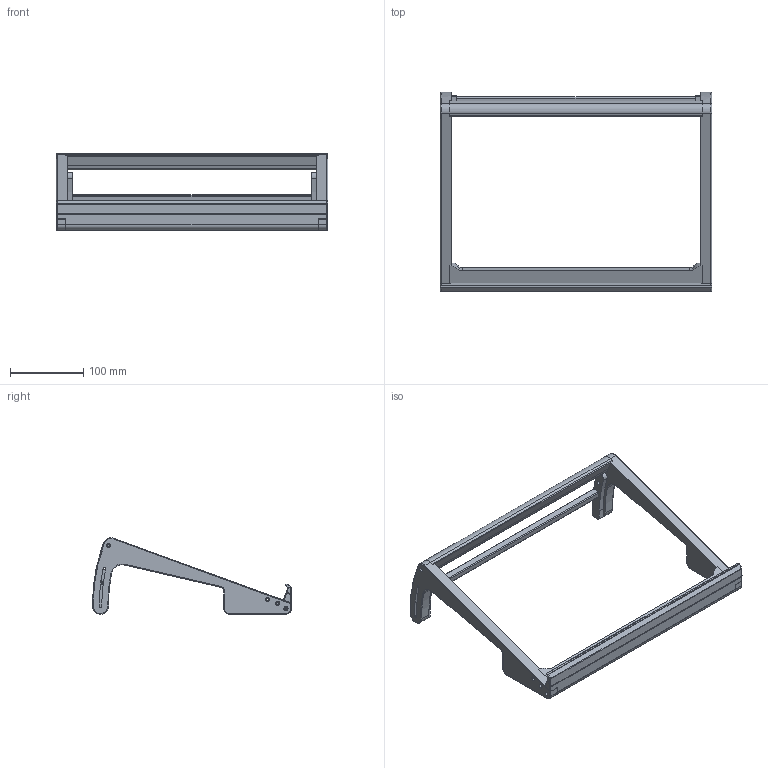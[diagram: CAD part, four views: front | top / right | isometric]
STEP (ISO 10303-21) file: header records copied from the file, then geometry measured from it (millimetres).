
FILE_DESCRIPTION(/* description */ (''),/* implementation_level */ '2;1');
FILE_NAME(/* name */ 'C:/Users/Eggy/Desktop/16TabletStand/16penTabletStand.step',/* time_stamp */ '2022-05-18T18:46:33+08:00',/* author */ (''),/* organization */ (''),/* preprocessor_version */ 'ST-DEVELOPER v18.1',/* originating_system */ 'Autodesk Translation Framework v10.14.0.1471',/* authorisation */ '');
FILE_SCHEMA (('AUTOMOTIVE_DESIGN { 1 0 10303 214 3 1 1 }'));
Length unit declared in the file: millimetre
Products named in the file (2): 16 tablet stand clean; Stand
Assembly tree (1 placements, depth 2):
  16 tablet stand clean
    Stand
Bounding box: 370 x 271.42 x 104.13 mm (x, y, z)
Volume: 734843.7 mm3; surface area: 199435.6 mm2
Topology: 9 solids, 11 shells, 425 faces, 1047 edges, 654 vertices
Faces by surface type: plane 244, cylinder 153, torus 20, sphere 6, bspline 2
Full cylindrical faces by diameter (mm): 2.5 x4, 2.6 x2, 2.8 x6, 2.9 x2, 3 x2, 3.2 x6, 3.4 x4, 5.6 x8, 5.7 x4
Entity records: 12738 total; most frequent: DIRECTION 2299, CARTESIAN_POINT 2245, ORIENTED_EDGE 2094, EDGE_CURVE 1047, AXIS2_PLACEMENT_3D 832, VERTEX_POINT 654, LINE 635, VECTOR 635
